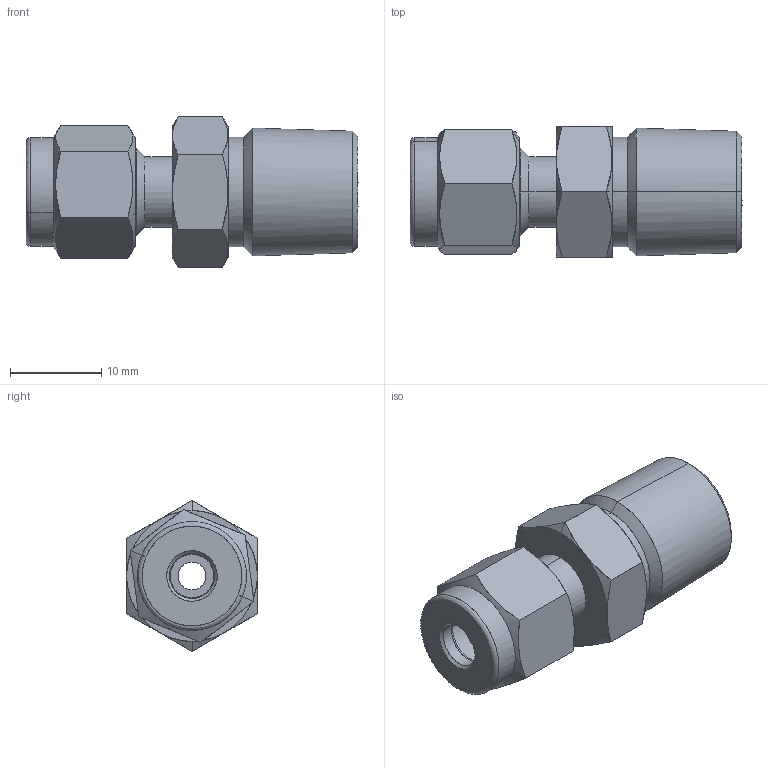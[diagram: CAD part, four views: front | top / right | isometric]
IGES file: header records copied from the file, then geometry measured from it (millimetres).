
Start section: Comment
Global section: file name: SMC3-4N.igs; native system:  By UGS Corp.; preprocessor: XPlus GENERIC/IGES 3.0; author: Author; organization: Title; date: 20100113.153221; units: millimetre
Bounding box: 36.3 x 14.29 x 16.5 mm (x, y, z)
Surface area: 2814.8 mm2 (no closed solid volume)
Topology: 0 solids, 0 shells, 81 faces, 358 edges, 358 vertices
Faces by surface type: bspline 81
